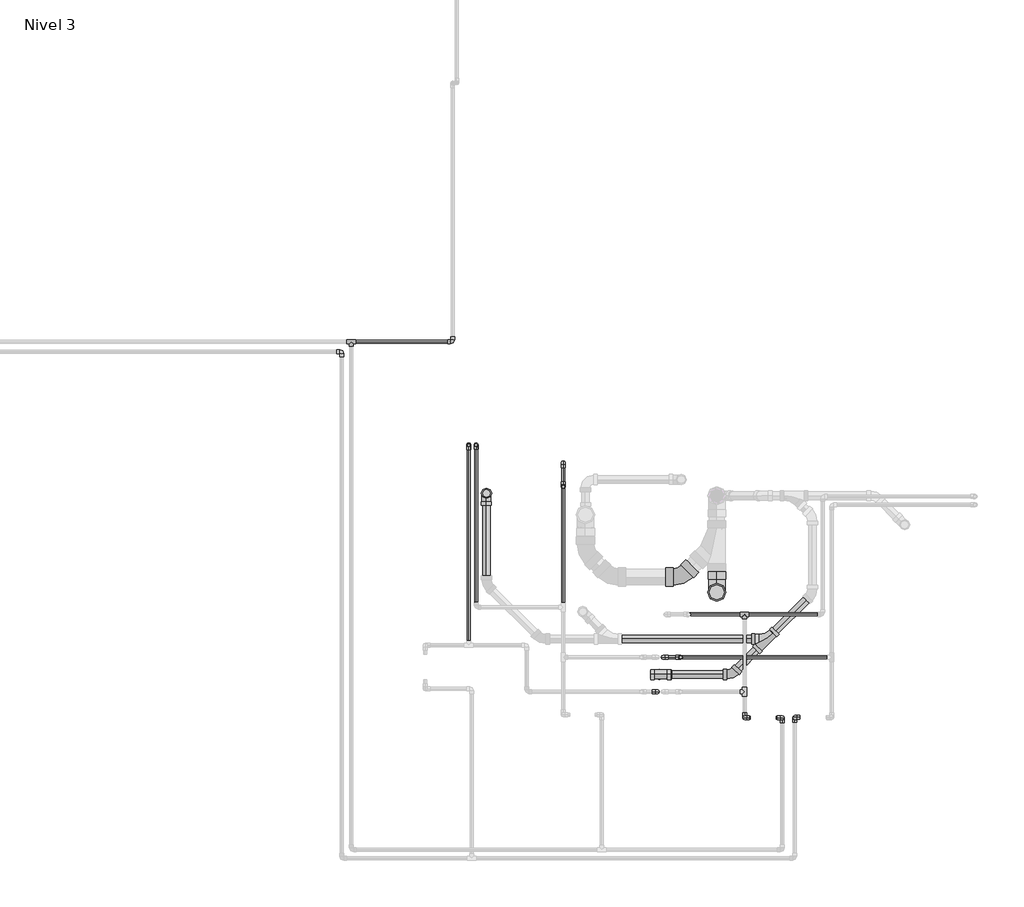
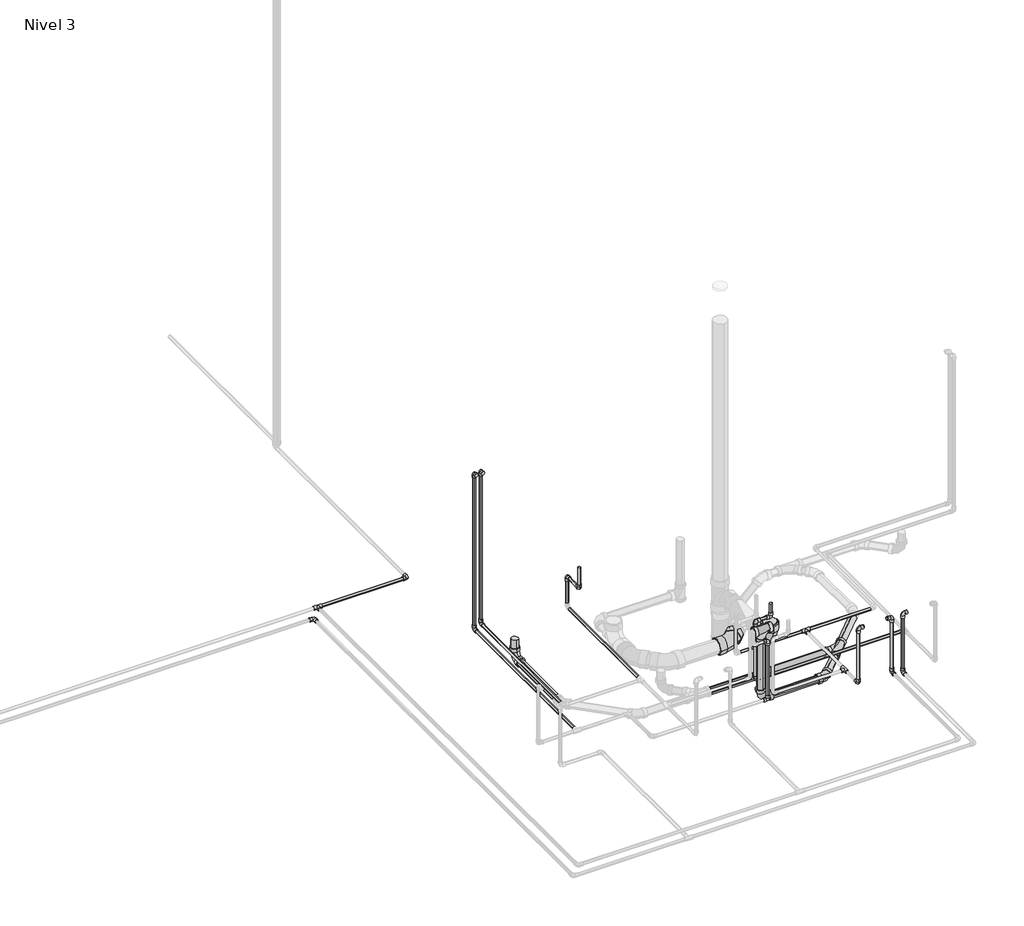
# One storey, part 3 of 9: 30 pipe segments, 29 pipe fittings.
"""IFC4 building model written with IfcOpenShell, lengths in millimetres."""

from ifc_helpers import new_model, si_unit, point, frame, frame_2d, origin, place, context, project, spatial, circle_curve, trimmed, segment, composite_curve, outline, extrude, transform, mapped, element, save
from components import pipe_fitting_ab418b84, pipe_fitting_0163322b, pipe_fitting_6ef1482d, m_codo_pvc_serie_40_9ad74631, m_codo_pvc_serie_40_ba05d404, m_codo_pvc_serie_40_dwv1_5c0ec739, m_codo_pvc_serie_40_dwv1_f5c0a64d, m_codo_pvc_serie_40_dwv1_9a7ca077, m_codo_pvc_serie_40_dwv1_6f1a2495

model = new_model("IFC4")

# Units and contexts
model_context = context("Model", 3, world=origin())
ifc_project = project(units=[si_unit("LENGTHUNIT", "METRE", prefix="MILLI")], contexts=[model_context])

# Site, building, storey
site = spatial("IfcSite", under=ifc_project)
building = spatial("IfcBuilding", under=site)
storey = spatial("IfcBuildingStorey", under=building, Name="Nivel 3", Elevation=5450.0)

# Pipe fittings
placement = place(None, origin())
pipe_fitting_shape = pipe_fitting_ab418b84(model_context)
element("IfcPipeFitting", 1, ObjectType="M_Te - PVC - Serie 40 : Estándar", at=placement, inside=storey, context=model_context, shape_type="MappedRepresentation", body=[
    mapped(pipe_fitting_shape, transform((4915.0072403, 7617.0181394, 5400.0), x_axis=(1.0, 0.0, 0.0), y_axis=(0.0, 1.0, 0.0), z_axis=(0.0, 0.0, 1.0))),
])
element("IfcPipeFitting", 2, ObjectType="M_Te - PVC - Serie 40 : Estándar", at=placement, inside=storey, context=model_context, shape_type="MappedRepresentation", body=[
    mapped(pipe_fitting_shape, transform((7622.9224126, 5206.6215833, 5400.0), x_axis=(0.0, 1.0, 0.0), y_axis=(1.0, 0.0, 0.0), z_axis=(0.0, 0.0, -1.0))),
])
element("IfcPipeFitting", 3, ObjectType="M_Te - PVC - Serie 40 : Estándar", at=placement, inside=storey, context=model_context, shape_type="MappedRepresentation", body=[
    mapped(pipe_fitting_shape, transform((7622.9224126, 5738.1215351, 5400.0), x_axis=(1.0, 0.0, 0.0), y_axis=(0.0, 1.0, 0.0), z_axis=(0.0, 0.0, 1.0))),
])
pipe_fitting_2_shape = pipe_fitting_0163322b(model_context)
element("IfcPipeFitting", 4, ObjectType="M_Sanitario con te de reducción - PVC - Serie 40 - DWV : Estándar", at=placement, inside=storey, context=model_context, shape_type="MappedRepresentation", body=[
    mapped(pipe_fitting_2_shape, transform((7780.3477467, 5569.8260974, 5300.0), x_axis=(-0.707106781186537, -0.7071067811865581, 0.0), y_axis=(0.7071067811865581, -0.707106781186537, 0.0), z_axis=(0.0, 0.0, 1.0))),
])
pipe_fitting_3_shape = pipe_fitting_6ef1482d(model_context)
element("IfcPipeFitting", 5, ObjectType="M_Sanitario con te de reducción - PVC - Serie 40 - DWV : Estándar", at=placement, inside=storey, context=model_context, shape_type="MappedRepresentation", body=[
    mapped(pipe_fitting_3_shape, transform((7035.5216492, 5325.0, 5860.6716548), x_axis=(-1.0, 0.0, 0.0), y_axis=(0.0, 0.0, 1.0), z_axis=(0.0, 1.0, 0.0))),
])
m_codo_pvc_serie_40_shape = m_codo_pvc_serie_40_9ad74631(model_context)
element("IfcPipeFitting", 6, ObjectType="M_Codo - PVC - Serie 40 : Estándar", at=placement, inside=storey, context=model_context, shape_type="MappedRepresentation", body=[
    mapped(m_codo_pvc_serie_40_shape, transform((6373.4849581, 6618.6807861, 5650.0), x_axis=(0.0, 0.0, -1.0), y_axis=(0.0, 1.0, 0.0), z_axis=(1.0, 0.0, 0.0))),
])
element("IfcPipeFitting", 7, ObjectType="M_Codo - PVC - Serie 40 : Estándar", at=placement, inside=storey, context=model_context, shape_type="MappedRepresentation", body=[
    mapped(m_codo_pvc_serie_40_shape, transform((6373.4849581, 6783.6807861, 5650.0), x_axis=(0.0, 1.0, 0.0), y_axis=(0.0, 0.0, -1.0), z_axis=(-1.0, 0.0, 0.0))),
])
element("IfcPipeFitting", 8, ObjectType="M_Codo - PVC - Serie 40 : Estándar", at=placement, inside=storey, context=model_context, shape_type="MappedRepresentation", body=[
    mapped(m_codo_pvc_serie_40_shape, transform((5611.6630441, 7617.0181394, 5400.0), x_axis=(1.0, 0.0, 0.0), y_axis=(0.0, 1.0, 0.0), z_axis=(0.0, 0.0, 1.0))),
])
element("IfcPipeFitting", 9, ObjectType="M_Codo - PVC - Serie 40 : Estándar", at=placement, inside=storey, context=model_context, shape_type="MappedRepresentation", body=[
    mapped(m_codo_pvc_serie_40_shape, transform((7622.9224126, 5026.6215833, 5400.0), x_axis=(0.0, -1.0, 0.0), y_axis=(0.0, 0.0, 1.0), z_axis=(-1.0, 0.0, 0.0))),
])
element("IfcPipeFitting", 10, ObjectType="M_Codo - PVC - Serie 40 : Estándar", at=placement, inside=storey, context=model_context, shape_type="MappedRepresentation", body=[
    mapped(m_codo_pvc_serie_40_shape, transform((7622.9224126, 5026.6215833, 5850.0), x_axis=(0.0, 0.0, 1.0), y_axis=(1.0, 0.0, 0.0), z_axis=(0.0, 1.0, 0.0))),
])
element("IfcPipeFitting", 11, ObjectType="M_Codo - PVC - Serie 40 : Estándar", at=placement, inside=storey, context=model_context, shape_type="MappedRepresentation", body=[
    mapped(m_codo_pvc_serie_40_shape, transform((7882.9224126, 5026.6215833, 5850.0), x_axis=(1.0, 0.0, 0.0), y_axis=(0.0, 0.0, -1.0), z_axis=(0.0, 1.0, 0.0))),
])
element("IfcPipeFitting", 12, ObjectType="M_Codo - PVC - Serie 40 : Estándar", at=placement, inside=storey, context=model_context, shape_type="MappedRepresentation", body=[
    mapped(m_codo_pvc_serie_40_shape, transform((7882.9224126, 5026.6215833, 5400.0), x_axis=(0.0, 0.0, -1.0), y_axis=(0.0, -1.0, 0.0), z_axis=(-1.0, 0.0, 0.0))),
])
element("IfcPipeFitting", 13, ObjectType="M_Codo - PVC - Serie 40 : Estándar", at=placement, inside=storey, context=model_context, shape_type="MappedRepresentation", body=[
    mapped(m_codo_pvc_serie_40_shape, transform((5773.4849581, 6908.5620607, 5400.0), x_axis=(0.0, 1.0, 0.0), y_axis=(0.0, 0.0, 1.0), z_axis=(1.0, 0.0, 0.0))),
])
element("IfcPipeFitting", 14, ObjectType="M_Codo - PVC - Serie 40 : Estándar", at=placement, inside=storey, context=model_context, shape_type="MappedRepresentation", body=[
    mapped(m_codo_pvc_serie_40_shape, transform((5773.4849581, 6908.5620607, 6650.0), x_axis=(0.0, 0.0, 1.0), y_axis=(0.0, -1.0, 0.0), z_axis=(1.0, 0.0, 0.0))),
])
element("IfcPipeFitting", 15, ObjectType="M_Codo - PVC - Serie 40 : Estándar", at=placement, inside=storey, context=model_context, shape_type="MappedRepresentation", body=[
    mapped(m_codo_pvc_serie_40_shape, transform((4848.2736664, 7548.5261191, 5370.0), x_axis=(0.0, 1.0, 0.0), y_axis=(-1.0, 0.0, 0.0), z_axis=(0.0, 0.0, 1.0))),
])
element("IfcPipeFitting", 16, ObjectType="M_Codo - PVC - Serie 40 : Estándar", at=placement, inside=storey, context=model_context, shape_type="MappedRepresentation", body=[
    mapped(m_codo_pvc_serie_40_shape, transform((7968.2736664, 5028.5261191, 5370.0), x_axis=(0.0, 1.0, 0.0), y_axis=(0.0, 0.0, 1.0), z_axis=(1.0, 0.0, 0.0))),
])
element("IfcPipeFitting", 17, ObjectType="M_Codo - PVC - Serie 40 : Estándar", at=placement, inside=storey, context=model_context, shape_type="MappedRepresentation", body=[
    mapped(m_codo_pvc_serie_40_shape, transform((7968.2736664, 5028.5261191, 5850.0), x_axis=(0.0, 0.0, 1.0), y_axis=(1.0, 0.0, 0.0), z_axis=(0.0, 1.0, 0.0))),
])
element("IfcPipeFitting", 18, ObjectType="M_Codo - PVC - Serie 40 : Estándar", at=placement, inside=storey, context=model_context, shape_type="MappedRepresentation", body=[
    mapped(m_codo_pvc_serie_40_shape, transform((7062.9224126, 5443.3784167, 5370.0), x_axis=(0.0, 0.0, -1.0), y_axis=(1.0, 0.0, 0.0), z_axis=(0.0, -1.0, 0.0))),
])
element("IfcPipeFitting", 19, ObjectType="M_Codo - PVC - Serie 40 : Estándar", at=placement, inside=storey, context=model_context, shape_type="MappedRepresentation", body=[
    mapped(m_codo_pvc_serie_40_shape, transform((5723.2442783, 6907.8715833, 5370.0), x_axis=(0.0, 1.0, 0.0), y_axis=(0.0, 0.0, 1.0), z_axis=(1.0, 0.0, 0.0))),
])
element("IfcPipeFitting", 20, ObjectType="M_Codo - PVC - Serie 40 : Estándar", at=placement, inside=storey, context=model_context, shape_type="MappedRepresentation", body=[
    mapped(m_codo_pvc_serie_40_shape, transform((5723.2442783, 6907.8715833, 6650.0), x_axis=(0.0, 0.0, 1.0), y_axis=(0.0, -1.0, 0.0), z_axis=(1.0, 0.0, 0.0))),
])
m_codo_pvc_serie_40_2_shape = m_codo_pvc_serie_40_ba05d404(model_context)
element("IfcPipeFitting", 21, ObjectType="M_Codo - PVC - Serie 40 : Estándar", at=placement, inside=storey, context=model_context, shape_type="MappedRepresentation", body=[
    mapped(m_codo_pvc_serie_40_2_shape, transform((7022.0365713, 5206.6215833, 5850.0), x_axis=(1.0, 0.0, 0.0), y_axis=(0.0, 0.0, 1.0), z_axis=(0.0, -1.0, 0.0))),
])
element("IfcPipeFitting", 22, ObjectType="M_Codo - PVC - Serie 40 : Estándar", at=placement, inside=storey, context=model_context, shape_type="MappedRepresentation", body=[
    mapped(m_codo_pvc_serie_40_2_shape, transform((7022.0365713, 5206.6215833, 5370.0), x_axis=(0.0, 0.0, -1.0), y_axis=(1.0, 0.0, 0.0), z_axis=(0.0, -1.0, 0.0))),
])
element("IfcPipeFitting", 23, ObjectType="M_Codo - PVC - Serie 40 : Estándar", at=placement, inside=storey, context=model_context, shape_type="MappedRepresentation", body=[
    mapped(m_codo_pvc_serie_40_2_shape, transform((7182.9224126, 5443.3784167, 5850.0), x_axis=(0.0, 0.0, -1.0), y_axis=(1.0, 0.0, 0.0), z_axis=(0.0, -1.0, 0.0))),
])
element("IfcPipeFitting", 24, ObjectType="M_Codo - PVC - Serie 40 : Estándar", at=placement, inside=storey, context=model_context, shape_type="MappedRepresentation", body=[
    mapped(m_codo_pvc_serie_40_2_shape, transform((7062.9224126, 5443.3784167, 5850.0), x_axis=(-1.0, 0.0, 0.0), y_axis=(0.0, 0.0, 1.0), z_axis=(0.0, 1.0, 0.0))),
])
m_codo_pvc_serie_40_dwv1_shape = m_codo_pvc_serie_40_dwv1_5c0ec739(model_context)
element("IfcPipeFitting", 25, ObjectType="M_Codo - PVC - Serie 40 - DWV1 : Estándar 2", at=placement, inside=storey, context=model_context, shape_type="MappedRepresentation", body=[
    mapped(m_codo_pvc_serie_40_dwv1_shape, transform((7035.5216492, 5325.0, 5300.0), x_axis=(0.0, 0.0, -1.0), y_axis=(1.0, 0.0, 0.0), z_axis=(0.0, -1.0, 0.0))),
])
element("IfcPipeFitting", 26, ObjectType="M_Codo - PVC - Serie 40 - DWV1 : Estándar 2", at=placement, inside=storey, context=model_context, shape_type="MappedRepresentation", body=[
    mapped(m_codo_pvc_serie_40_dwv1_shape, transform((5845.3355737, 6572.9803974, 5300.0), x_axis=(0.0, 1.0, 0.0), y_axis=(0.0, 0.0, 1.0), z_axis=(1.0, 0.0, 0.0))),
])
m_codo_pvc_serie_40_dwv1_2_shape = m_codo_pvc_serie_40_dwv1_f5c0a64d(model_context)
element("IfcPipeFitting", 27, ObjectType="M_Codo - PVC - Serie 40 - DWV1 : Estándar 2", at=placement, inside=storey, context=model_context, shape_type="MappedRepresentation", body=[
    mapped(m_codo_pvc_serie_40_dwv1_2_shape, transform((7432.3176766, 5891.6039726, 5300.0), x_axis=(0.0, 0.0, -1.0), y_axis=(0.0, 1.0, 0.0), z_axis=(1.0, 0.0, 0.0))),
])
m_codo_pvc_serie_40_dwv1_3_shape = m_codo_pvc_serie_40_dwv1_9a7ca077(model_context)
element("IfcPipeFitting", 28, ObjectType="M_Codo - PVC - Serie 40 - DWV1 : Estándar 2", at=placement, inside=storey, context=model_context, shape_type="MappedRepresentation", body=[
    mapped(m_codo_pvc_serie_40_dwv1_3_shape, transform((7188.0943794, 5996.1455314, 5300.0), x_axis=(1.0, 0.0, 0.0), y_axis=(0.0, 1.0, 0.0), z_axis=(0.0, 0.0, 1.0))),
])
m_codo_pvc_serie_40_dwv1_4_shape = m_codo_pvc_serie_40_dwv1_6f1a2495(model_context)
element("IfcPipeFitting", 29, ObjectType="M_Codo - PVC - Serie 40 - DWV1 : Estándar 2", at=placement, inside=storey, context=model_context, shape_type="MappedRepresentation", body=[
    mapped(m_codo_pvc_serie_40_dwv1_4_shape, transform((7535.5216492, 5325.0, 5300.0), x_axis=(1.0, 0.0, 0.0), y_axis=(0.0, 1.0, 0.0), z_axis=(0.0, 0.0, 1.0))),
])

# Pipe segments
element("IfcPipeSegment", 30, ObjectType="Tuberia PVC Agua Fria", at=placement, inside=storey, context=model_context, shape_type="SweptSolid", body=[
    extrude(outline(composite_curve([segment(trimmed(circle_curve(frame_2d((5650.0, 6373.4849581)), 10.31875), [point((5650.0, 6383.8037081))], [point((5660.31875, 6373.4849581))], False, "CARTESIAN"), True, "CONTINUOUS"), segment(trimmed(circle_curve(frame_2d((5650.0, 6373.4849581)), 10.31875), [point((5660.31875, 6373.4849581))], [point((5650.0, 6363.1662081))], False, "CARTESIAN"), True, "CONTINUOUS"), segment(trimmed(circle_curve(frame_2d((5650.0, 6373.4849581)), 10.31875), [point((5650.0, 6363.1662081))], [point((5639.68125, 6373.4849581))], False, "CARTESIAN"), True, "CONTINUOUS"), segment(trimmed(circle_curve(frame_2d((5650.0, 6373.4849581)), 10.31875), [point((5639.68125, 6373.4849581))], [point((5650.0, 6383.8037081))], False, "CARTESIAN"), True, "CONTINUOUS")], self_intersect=False)), frame((0.0, 6652.0817861, 0.0), z_axis=(0.0, 1.0, 0.0), x_axis=(0.0, 0.0, 1.0)), (0.0, 0.0, 1.0), 98.198),
])
element("IfcPipeSegment", 31, ObjectType="Tuberia PVC Agua Fria", at=placement, inside=storey, context=model_context, shape_type="SweptSolid", body=[
    extrude(outline(composite_curve([segment(trimmed(circle_curve(frame_2d((6373.4849581, 6618.6807861)), 10.31875), [point((6383.8037081, 6618.6807861))], [point((6373.4849581, 6608.3620361))], False, "CARTESIAN"), True, "CONTINUOUS"), segment(trimmed(circle_curve(frame_2d((6373.4849581, 6618.6807861)), 10.31875), [point((6373.4849581, 6608.3620361))], [point((6363.1662081, 6618.6807861))], False, "CARTESIAN"), True, "CONTINUOUS"), segment(trimmed(circle_curve(frame_2d((6373.4849581, 6618.6807861)), 10.31875), [point((6363.1662081, 6618.6807861))], [point((6373.4849581, 6628.9995361))], False, "CARTESIAN"), True, "CONTINUOUS"), segment(trimmed(circle_curve(frame_2d((6373.4849581, 6618.6807861)), 10.31875), [point((6373.4849581, 6628.9995361))], [point((6383.8037081, 6618.6807861))], False, "CARTESIAN"), True, "CONTINUOUS")], self_intersect=False)), frame((0.0, 0.0, 5683.401), z_axis=(0.0, 0.0, 1.0), x_axis=(1.0, 0.0, 0.0)), (0.0, 0.0, 1.0), 139.7562509),
])
element("IfcPipeSegment", 32, ObjectType="Tuberia PVC Agua Fria", at=placement, inside=storey, context=model_context, shape_type="SweptSolid", body=[
    extrude(outline(composite_curve([segment(trimmed(circle_curve(frame_2d((6373.4849581, 6783.6807861)), 10.31875), [point((6383.8037081, 6783.6807861))], [point((6373.4849581, 6773.3620361))], False, "CARTESIAN"), True, "CONTINUOUS"), segment(trimmed(circle_curve(frame_2d((6373.4849581, 6783.6807861)), 10.31875), [point((6373.4849581, 6773.3620361))], [point((6363.1662081, 6783.6807861))], False, "CARTESIAN"), True, "CONTINUOUS"), segment(trimmed(circle_curve(frame_2d((6373.4849581, 6783.6807861)), 10.31875), [point((6363.1662081, 6783.6807861))], [point((6373.4849581, 6793.9995361))], False, "CARTESIAN"), True, "CONTINUOUS"), segment(trimmed(circle_curve(frame_2d((6373.4849581, 6783.6807861)), 10.31875), [point((6373.4849581, 6793.9995361))], [point((6383.8037081, 6783.6807861))], False, "CARTESIAN"), True, "CONTINUOUS")], self_intersect=False)), frame((0.0, 0.0, 5433.401), z_axis=(0.0, 0.0, 1.0), x_axis=(1.0, 0.0, 0.0)), (0.0, 0.0, 1.0), 183.198),
])
element("IfcPipeSegment", 33, ObjectType="Tuberia PVC Agua Fria", at=placement, inside=storey, context=model_context, shape_type="SweptSolid", body=[
    extrude(outline(composite_curve([segment(trimmed(circle_curve(frame_2d((7617.0181394, 5400.0)), 10.31875), [point((7627.3368894, 5400.0))], [point((7617.0181394, 5389.68125))], False, "CARTESIAN"), True, "CONTINUOUS"), segment(trimmed(circle_curve(frame_2d((7617.0181394, 5400.0)), 10.31875), [point((7617.0181394, 5389.68125))], [point((7606.6993894, 5400.0))], False, "CARTESIAN"), True, "CONTINUOUS"), segment(trimmed(circle_curve(frame_2d((7617.0181394, 5400.0)), 10.31875), [point((7606.6993894, 5400.0))], [point((7617.0181394, 5410.31875))], False, "CARTESIAN"), True, "CONTINUOUS"), segment(trimmed(circle_curve(frame_2d((7617.0181394, 5400.0)), 10.31875), [point((7617.0181394, 5410.31875))], [point((7627.3368894, 5400.0))], False, "CARTESIAN"), True, "CONTINUOUS")], self_intersect=False)), frame((4945.4673966, 0.0, 0.0), z_axis=(1.0, 0.0, 0.0), x_axis=(0.0, 1.0, 0.0)), (0.0, 0.0, 1.0), 632.7946475),
])
element("IfcPipeSegment", 34, ObjectType="Tuberia PVC Agua Fria", at=placement, inside=storey, context=model_context, shape_type="SweptSolid", body=[
    extrude(outline(composite_curve([segment(trimmed(circle_curve(frame_2d((5400.0, 6373.4849581)), 10.31875), [point((5400.0, 6383.8037081))], [point((5410.31875, 6373.4849581))], False, "CARTESIAN"), True, "CONTINUOUS"), segment(trimmed(circle_curve(frame_2d((5400.0, 6373.4849581)), 10.31875), [point((5410.31875, 6373.4849581))], [point((5400.0, 6363.1662081))], False, "CARTESIAN"), True, "CONTINUOUS"), segment(trimmed(circle_curve(frame_2d((5400.0, 6373.4849581)), 10.31875), [point((5400.0, 6363.1662081))], [point((5389.68125, 6373.4849581))], False, "CARTESIAN"), True, "CONTINUOUS"), segment(trimmed(circle_curve(frame_2d((5400.0, 6373.4849581)), 10.31875), [point((5389.68125, 6373.4849581))], [point((5400.0, 6383.8037081))], False, "CARTESIAN"), True, "CONTINUOUS")], self_intersect=False)), frame((0.0, 5819.0222169, 0.0), z_axis=(0.0, 1.0, 0.0), x_axis=(0.0, 0.0, 1.0)), (0.0, 0.0, 1.0), 931.2575692),
])
element("IfcPipeSegment", 35, ObjectType="Tuberia PVC Agua Fria", at=placement, inside=storey, context=model_context, shape_type="SweptSolid", body=[
    extrude(outline(composite_curve([segment(trimmed(circle_curve(frame_2d((5026.6215833, 5850.0)), 10.31875), [point((5016.3028333, 5850.0))], [point((5026.6215833, 5860.31875))], False, "CARTESIAN"), True, "CONTINUOUS"), segment(trimmed(circle_curve(frame_2d((5026.6215833, 5850.0)), 10.31875), [point((5026.6215833, 5860.31875))], [point((5036.9403333, 5850.0))], False, "CARTESIAN"), True, "CONTINUOUS"), segment(trimmed(circle_curve(frame_2d((5026.6215833, 5850.0)), 10.31875), [point((5036.9403333, 5850.0))], [point((5026.6215833, 5839.68125))], False, "CARTESIAN"), True, "CONTINUOUS"), segment(trimmed(circle_curve(frame_2d((5026.6215833, 5850.0)), 10.31875), [point((5026.6215833, 5839.68125))], [point((5016.3028333, 5850.0))], False, "CARTESIAN"), True, "CONTINUOUS")], self_intersect=False)), frame((7841.9224126, 0.0, 0.0), z_axis=(1.0, 0.0, 0.0), x_axis=(0.0, 1.0, 0.0)), (0.0, 0.0, 1.0), 7.599),
])
element("IfcPipeSegment", 36, ObjectType="Tuberia PVC Agua Fria", at=placement, inside=storey, context=model_context, shape_type="SweptSolid", body=[
    extrude(outline(composite_curve([segment(trimmed(circle_curve(frame_2d((7622.9224126, 5026.6215833)), 10.31875), [point((7612.6036626, 5026.6215833))], [point((7622.9224126, 5036.9403333))], False, "CARTESIAN"), True, "CONTINUOUS"), segment(trimmed(circle_curve(frame_2d((7622.9224126, 5026.6215833)), 10.31875), [point((7622.9224126, 5036.9403333))], [point((7633.2411626, 5026.6215833))], False, "CARTESIAN"), True, "CONTINUOUS"), segment(trimmed(circle_curve(frame_2d((7622.9224126, 5026.6215833)), 10.31875), [point((7633.2411626, 5026.6215833))], [point((7622.9224126, 5016.3028333))], False, "CARTESIAN"), True, "CONTINUOUS"), segment(trimmed(circle_curve(frame_2d((7622.9224126, 5026.6215833)), 10.31875), [point((7622.9224126, 5016.3028333))], [point((7612.6036626, 5026.6215833))], False, "CARTESIAN"), True, "CONTINUOUS")], self_intersect=False)), frame((0.0, 0.0, 5433.401), z_axis=(0.0, 0.0, 1.0), x_axis=(1.0, 0.0, 0.0)), (0.0, 0.0, 1.0), 383.198),
])
element("IfcPipeSegment", 37, ObjectType="Tuberia PVC Agua Fria", at=placement, inside=storey, context=model_context, shape_type="SweptSolid", body=[
    extrude(outline(composite_curve([segment(trimmed(circle_curve(frame_2d((7882.9224126, 5026.6215833)), 10.31875), [point((7893.2411626, 5026.6215833))], [point((7882.9224126, 5016.3028333))], False, "CARTESIAN"), True, "CONTINUOUS"), segment(trimmed(circle_curve(frame_2d((7882.9224126, 5026.6215833)), 10.31875), [point((7882.9224126, 5016.3028333))], [point((7872.6036626, 5026.6215833))], False, "CARTESIAN"), True, "CONTINUOUS"), segment(trimmed(circle_curve(frame_2d((7882.9224126, 5026.6215833)), 10.31875), [point((7872.6036626, 5026.6215833))], [point((7882.9224126, 5036.9403333))], False, "CARTESIAN"), True, "CONTINUOUS"), segment(trimmed(circle_curve(frame_2d((7882.9224126, 5026.6215833)), 10.31875), [point((7882.9224126, 5036.9403333))], [point((7893.2411626, 5026.6215833))], False, "CARTESIAN"), True, "CONTINUOUS")], self_intersect=False)), frame((0.0, 0.0, 5433.401), z_axis=(0.0, 0.0, 1.0), x_axis=(1.0, 0.0, 0.0)), (0.0, 0.0, 1.0), 383.198),
])
element("IfcPipeSegment", 38, ObjectType="Tuberia PVC Agua Fria", at=placement, inside=storey, context=model_context, shape_type="SweptSolid", body=[
    extrude(outline(composite_curve([segment(trimmed(circle_curve(frame_2d((5400.0, 5773.4849581)), 10.31875), [point((5400.0, 5783.8037081))], [point((5410.31875, 5773.4849581))], False, "CARTESIAN"), True, "CONTINUOUS"), segment(trimmed(circle_curve(frame_2d((5400.0, 5773.4849581)), 10.31875), [point((5410.31875, 5773.4849581))], [point((5400.0, 5763.1662081))], False, "CARTESIAN"), True, "CONTINUOUS"), segment(trimmed(circle_curve(frame_2d((5400.0, 5773.4849581)), 10.31875), [point((5400.0, 5763.1662081))], [point((5389.68125, 5773.4849581))], False, "CARTESIAN"), True, "CONTINUOUS"), segment(trimmed(circle_curve(frame_2d((5400.0, 5773.4849581)), 10.31875), [point((5389.68125, 5773.4849581))], [point((5400.0, 5783.8037081))], False, "CARTESIAN"), True, "CONTINUOUS")], self_intersect=False)), frame((0.0, 5821.9630607, 0.0), z_axis=(0.0, 1.0, 0.0), x_axis=(0.0, 0.0, 1.0)), (0.0, 0.0, 1.0), 1053.198),
])
element("IfcPipeSegment", 39, ObjectType="Tuberia PVC Agua Fria", at=placement, inside=storey, context=model_context, shape_type="SweptSolid", body=[
    extrude(outline(composite_curve([segment(trimmed(circle_curve(frame_2d((5773.4849581, 6908.5620607)), 10.31875), [point((5763.1662081, 6908.5620607))], [point((5773.4849581, 6918.8808107))], False, "CARTESIAN"), True, "CONTINUOUS"), segment(trimmed(circle_curve(frame_2d((5773.4849581, 6908.5620607)), 10.31875), [point((5773.4849581, 6918.8808107))], [point((5783.8037081, 6908.5620607))], False, "CARTESIAN"), True, "CONTINUOUS"), segment(trimmed(circle_curve(frame_2d((5773.4849581, 6908.5620607)), 10.31875), [point((5783.8037081, 6908.5620607))], [point((5773.4849581, 6898.2433107))], False, "CARTESIAN"), True, "CONTINUOUS"), segment(trimmed(circle_curve(frame_2d((5773.4849581, 6908.5620607)), 10.31875), [point((5773.4849581, 6898.2433107))], [point((5763.1662081, 6908.5620607))], False, "CARTESIAN"), True, "CONTINUOUS")], self_intersect=False)), frame((0.0, 0.0, 5433.401), z_axis=(0.0, 0.0, 1.0), x_axis=(1.0, 0.0, 0.0)), (0.0, 0.0, 1.0), 1183.198),
])
element("IfcPipeSegment", 40, ObjectType="Tuberia PVC Agua Fria", at=placement, inside=storey, context=model_context, shape_type="SweptSolid", body=[
    extrude(outline(composite_curve([segment(trimmed(circle_curve(frame_2d((5738.1215351, 5400.0)), 10.31875), [point((5748.4402851, 5400.0))], [point((5738.1215351, 5389.68125))], False, "CARTESIAN"), True, "CONTINUOUS"), segment(trimmed(circle_curve(frame_2d((5738.1215351, 5400.0)), 10.31875), [point((5738.1215351, 5389.68125))], [point((5727.8027851, 5400.0))], False, "CARTESIAN"), True, "CONTINUOUS"), segment(trimmed(circle_curve(frame_2d((5738.1215351, 5400.0)), 10.31875), [point((5727.8027851, 5400.0))], [point((5738.1215351, 5410.31875))], False, "CARTESIAN"), True, "CONTINUOUS"), segment(trimmed(circle_curve(frame_2d((5738.1215351, 5400.0)), 10.31875), [point((5738.1215351, 5410.31875))], [point((5748.4402851, 5400.0))], False, "CARTESIAN"), True, "CONTINUOUS")], self_intersect=False)), frame((7112.7418631, 0.0, 0.0), z_axis=(1.0, 0.0, 0.0), x_axis=(0.0, 1.0, 0.0)), (0.0, 0.0, 1.0), 479.7203933),
])
element("IfcPipeSegment", 41, ObjectType="Tuberia PVC Agua Fria", at=placement, inside=storey, context=model_context, shape_type="SweptSolid", body=[
    extrude(outline(composite_curve([segment(trimmed(circle_curve(frame_2d((5738.1215351, 5400.0)), 10.31875), [point((5748.4402851, 5400.0))], [point((5738.1215351, 5389.68125))], False, "CARTESIAN"), True, "CONTINUOUS"), segment(trimmed(circle_curve(frame_2d((5738.1215351, 5400.0)), 10.31875), [point((5738.1215351, 5389.68125))], [point((5727.8027851, 5400.0))], False, "CARTESIAN"), True, "CONTINUOUS"), segment(trimmed(circle_curve(frame_2d((5738.1215351, 5400.0)), 10.31875), [point((5727.8027851, 5400.0))], [point((5738.1215351, 5410.31875))], False, "CARTESIAN"), True, "CONTINUOUS"), segment(trimmed(circle_curve(frame_2d((5738.1215351, 5400.0)), 10.31875), [point((5738.1215351, 5410.31875))], [point((5748.4402851, 5400.0))], False, "CARTESIAN"), True, "CONTINUOUS")], self_intersect=False)), frame((7653.3825689, 0.0, 0.0), z_axis=(1.0, 0.0, 0.0), x_axis=(0.0, 1.0, 0.0)), (0.0, 0.0, 1.0), 473.9388792),
])
element("IfcPipeSegment", 42, ObjectType="Tuberia PVC Agua Fria", at=placement, inside=storey, context=model_context, shape_type="SweptSolid", body=[
    extrude(outline(composite_curve([segment(trimmed(circle_curve(frame_2d((5026.6215833, 5850.0)), 10.31875), [point((5016.3028333, 5850.0))], [point((5026.6215833, 5860.31875))], False, "CARTESIAN"), True, "CONTINUOUS"), segment(trimmed(circle_curve(frame_2d((5026.6215833, 5850.0)), 10.31875), [point((5026.6215833, 5860.31875))], [point((5036.9403333, 5850.0))], False, "CARTESIAN"), True, "CONTINUOUS"), segment(trimmed(circle_curve(frame_2d((5026.6215833, 5850.0)), 10.31875), [point((5036.9403333, 5850.0))], [point((5026.6215833, 5839.68125))], False, "CARTESIAN"), True, "CONTINUOUS"), segment(trimmed(circle_curve(frame_2d((5026.6215833, 5850.0)), 10.31875), [point((5026.6215833, 5839.68125))], [point((5016.3028333, 5850.0))], False, "CARTESIAN"), True, "CONTINUOUS")], self_intersect=False)), frame((7656.3234126, 0.0, 0.0), z_axis=(1.0, 0.0, 0.0), x_axis=(0.0, 1.0, 0.0)), (0.0, 0.0, 1.0), 7.599),
])
element("IfcPipeSegment", 43, ObjectType="Tuberia PVC Agua Caliente", at=placement, inside=storey, context=model_context, shape_type="SweptSolid", body=[
    extrude(outline(composite_curve([segment(trimmed(circle_curve(frame_2d((7968.2736664, 5028.5261191)), 10.31875), [point((7957.9549164, 5028.5261191))], [point((7968.2736664, 5038.8448691))], False, "CARTESIAN"), True, "CONTINUOUS"), segment(trimmed(circle_curve(frame_2d((7968.2736664, 5028.5261191)), 10.31875), [point((7968.2736664, 5038.8448691))], [point((7978.5924164, 5028.5261191))], False, "CARTESIAN"), True, "CONTINUOUS"), segment(trimmed(circle_curve(frame_2d((7968.2736664, 5028.5261191)), 10.31875), [point((7978.5924164, 5028.5261191))], [point((7968.2736664, 5018.2073691))], False, "CARTESIAN"), True, "CONTINUOUS"), segment(trimmed(circle_curve(frame_2d((7968.2736664, 5028.5261191)), 10.31875), [point((7968.2736664, 5018.2073691))], [point((7957.9549164, 5028.5261191))], False, "CARTESIAN"), True, "CONTINUOUS")], self_intersect=False)), frame((0.0, 0.0, 5403.401), z_axis=(0.0, 0.0, 1.0), x_axis=(1.0, 0.0, 0.0)), (0.0, 0.0, 1.0), 413.198),
])
element("IfcPipeSegment", 44, ObjectType="Tuberia PVC Agua Caliente", at=placement, inside=storey, context=model_context, shape_type="SweptSolid", body=[
    extrude(outline(composite_curve([segment(trimmed(circle_curve(frame_2d((7022.0365713, 5206.6215833)), 10.31875), [point((7032.3553213, 5206.6215833))], [point((7022.0365713, 5196.3028333))], False, "CARTESIAN"), True, "CONTINUOUS"), segment(trimmed(circle_curve(frame_2d((7022.0365713, 5206.6215833)), 10.31875), [point((7022.0365713, 5196.3028333))], [point((7011.7178213, 5206.6215833))], False, "CARTESIAN"), True, "CONTINUOUS"), segment(trimmed(circle_curve(frame_2d((7022.0365713, 5206.6215833)), 10.31875), [point((7011.7178213, 5206.6215833))], [point((7022.0365713, 5216.9403333))], False, "CARTESIAN"), True, "CONTINUOUS"), segment(trimmed(circle_curve(frame_2d((7022.0365713, 5206.6215833)), 10.31875), [point((7022.0365713, 5216.9403333))], [point((7032.3553213, 5206.6215833))], False, "CARTESIAN"), True, "CONTINUOUS")], self_intersect=False)), frame((0.0, 0.0, 5403.401), z_axis=(0.0, 0.0, 1.0), x_axis=(1.0, 0.0, 0.0)), (0.0, 0.0, 1.0), 413.198),
])
element("IfcPipeSegment", 45, ObjectType="Tuberia PVC Agua Caliente", at=placement, inside=storey, context=model_context, shape_type="SweptSolid", body=[
    extrude(outline(composite_curve([segment(trimmed(circle_curve(frame_2d((5443.3784167, 5850.0)), 10.31875), [point((5453.6971667, 5850.0))], [point((5443.3784167, 5839.68125))], False, "CARTESIAN"), True, "CONTINUOUS"), segment(trimmed(circle_curve(frame_2d((5443.3784167, 5850.0)), 10.31875), [point((5443.3784167, 5839.68125))], [point((5433.0596667, 5850.0))], False, "CARTESIAN"), True, "CONTINUOUS"), segment(trimmed(circle_curve(frame_2d((5443.3784167, 5850.0)), 10.31875), [point((5433.0596667, 5850.0))], [point((5443.3784167, 5860.31875))], False, "CARTESIAN"), True, "CONTINUOUS"), segment(trimmed(circle_curve(frame_2d((5443.3784167, 5850.0)), 10.31875), [point((5443.3784167, 5860.31875))], [point((5453.6971667, 5850.0))], False, "CARTESIAN"), True, "CONTINUOUS")], self_intersect=False)), frame((7096.3234126, 0.0, 0.0), z_axis=(1.0, 0.0, 0.0), x_axis=(0.0, 1.0, 0.0)), (0.0, 0.0, 1.0), 53.198),
])
element("IfcPipeSegment", 46, ObjectType="Tuberia PVC Agua Caliente", at=placement, inside=storey, context=model_context, shape_type="SweptSolid", body=[
    extrude(outline(composite_curve([segment(trimmed(circle_curve(frame_2d((7182.9224126, 5443.3784167)), 10.31875), [point((7193.2411626, 5443.3784167))], [point((7182.9224126, 5433.0596667))], False, "CARTESIAN"), True, "CONTINUOUS"), segment(trimmed(circle_curve(frame_2d((7182.9224126, 5443.3784167)), 10.31875), [point((7182.9224126, 5433.0596667))], [point((7172.6036626, 5443.3784167))], False, "CARTESIAN"), True, "CONTINUOUS"), segment(trimmed(circle_curve(frame_2d((7182.9224126, 5443.3784167)), 10.31875), [point((7172.6036626, 5443.3784167))], [point((7182.9224126, 5453.6971667))], False, "CARTESIAN"), True, "CONTINUOUS"), segment(trimmed(circle_curve(frame_2d((7182.9224126, 5443.3784167)), 10.31875), [point((7182.9224126, 5453.6971667))], [point((7193.2411626, 5443.3784167))], False, "CARTESIAN"), True, "CONTINUOUS")], self_intersect=False)), frame((0.0, 0.0, 5883.401), z_axis=(0.0, 0.0, 1.0), x_axis=(1.0, 0.0, 0.0)), (0.0, 0.0, 1.0), 74.0983614),
])
element("IfcPipeSegment", 47, ObjectType="Tuberia PVC Agua Caliente", at=placement, inside=storey, context=model_context, shape_type="SweptSolid", body=[
    extrude(outline(composite_curve([segment(trimmed(circle_curve(frame_2d((5443.3784167, 5370.0)), 10.31875), [point((5433.0596667, 5370.0))], [point((5443.3784167, 5380.31875))], False, "CARTESIAN"), True, "CONTINUOUS"), segment(trimmed(circle_curve(frame_2d((5443.3784167, 5370.0)), 10.31875), [point((5443.3784167, 5380.31875))], [point((5453.6971667, 5370.0))], False, "CARTESIAN"), True, "CONTINUOUS"), segment(trimmed(circle_curve(frame_2d((5443.3784167, 5370.0)), 10.31875), [point((5453.6971667, 5370.0))], [point((5443.3784167, 5359.68125))], False, "CARTESIAN"), True, "CONTINUOUS"), segment(trimmed(circle_curve(frame_2d((5443.3784167, 5370.0)), 10.31875), [point((5443.3784167, 5359.68125))], [point((5433.0596667, 5370.0))], False, "CARTESIAN"), True, "CONTINUOUS")], self_intersect=False)), frame((7096.3234126, 0.0, 0.0), z_axis=(1.0, 0.0, 0.0), x_axis=(0.0, 1.0, 0.0)), (0.0, 0.0, 1.0), 1096.4900975),
])
element("IfcPipeSegment", 48, ObjectType="Tuberia PVC Agua Caliente", at=placement, inside=storey, context=model_context, shape_type="SweptSolid", body=[
    extrude(outline(composite_curve([segment(trimmed(circle_curve(frame_2d((7062.9224126, 5443.3784167)), 10.31875), [point((7073.2411626, 5443.3784167))], [point((7062.9224126, 5433.0596667))], False, "CARTESIAN"), True, "CONTINUOUS"), segment(trimmed(circle_curve(frame_2d((7062.9224126, 5443.3784167)), 10.31875), [point((7062.9224126, 5433.0596667))], [point((7052.6036626, 5443.3784167))], False, "CARTESIAN"), True, "CONTINUOUS"), segment(trimmed(circle_curve(frame_2d((7062.9224126, 5443.3784167)), 10.31875), [point((7052.6036626, 5443.3784167))], [point((7062.9224126, 5453.6971667))], False, "CARTESIAN"), True, "CONTINUOUS"), segment(trimmed(circle_curve(frame_2d((7062.9224126, 5443.3784167)), 10.31875), [point((7062.9224126, 5453.6971667))], [point((7073.2411626, 5443.3784167))], False, "CARTESIAN"), True, "CONTINUOUS")], self_intersect=False)), frame((0.0, 0.0, 5403.401), z_axis=(0.0, 0.0, 1.0), x_axis=(1.0, 0.0, 0.0)), (0.0, 0.0, 1.0), 413.198),
])
element("IfcPipeSegment", 49, ObjectType="Tuberia PVC Agua Caliente", at=placement, inside=storey, context=model_context, shape_type="SweptSolid", body=[
    extrude(outline(composite_curve([segment(trimmed(circle_curve(frame_2d((5370.0, 5723.2442783)), 10.31875), [point((5370.0, 5733.5630283))], [point((5380.31875, 5723.2442783))], False, "CARTESIAN"), True, "CONTINUOUS"), segment(trimmed(circle_curve(frame_2d((5370.0, 5723.2442783)), 10.31875), [point((5380.31875, 5723.2442783))], [point((5370.0, 5712.9255283))], False, "CARTESIAN"), True, "CONTINUOUS"), segment(trimmed(circle_curve(frame_2d((5370.0, 5723.2442783)), 10.31875), [point((5370.0, 5712.9255283))], [point((5359.68125, 5723.2442783))], False, "CARTESIAN"), True, "CONTINUOUS"), segment(trimmed(circle_curve(frame_2d((5370.0, 5723.2442783)), 10.31875), [point((5359.68125, 5723.2442783))], [point((5370.0, 5733.5630283))], False, "CARTESIAN"), True, "CONTINUOUS")], self_intersect=False)), frame((0.0, 5557.0817396, 0.0), z_axis=(0.0, 1.0, 0.0), x_axis=(0.0, 0.0, 1.0)), (0.0, 0.0, 1.0), 1317.3888438),
])
element("IfcPipeSegment", 50, ObjectType="Tuberia PVC Agua Caliente", at=placement, inside=storey, context=model_context, shape_type="SweptSolid", body=[
    extrude(outline(composite_curve([segment(trimmed(circle_curve(frame_2d((5723.2442783, 6907.8715833)), 10.31875), [point((5712.9255283, 6907.8715833))], [point((5723.2442783, 6918.1903333))], False, "CARTESIAN"), True, "CONTINUOUS"), segment(trimmed(circle_curve(frame_2d((5723.2442783, 6907.8715833)), 10.31875), [point((5723.2442783, 6918.1903333))], [point((5733.5630283, 6907.8715833))], False, "CARTESIAN"), True, "CONTINUOUS"), segment(trimmed(circle_curve(frame_2d((5723.2442783, 6907.8715833)), 10.31875), [point((5733.5630283, 6907.8715833))], [point((5723.2442783, 6897.5528333))], False, "CARTESIAN"), True, "CONTINUOUS"), segment(trimmed(circle_curve(frame_2d((5723.2442783, 6907.8715833)), 10.31875), [point((5723.2442783, 6897.5528333))], [point((5712.9255283, 6907.8715833))], False, "CARTESIAN"), True, "CONTINUOUS")], self_intersect=False)), frame((0.0, 0.0, 5403.401), z_axis=(0.0, 0.0, 1.0), x_axis=(1.0, 0.0, 0.0)), (0.0, 0.0, 1.0), 1213.198),
])
element("IfcPipeSegment", 51, ObjectType="Tuberia PVC Sanitario", at=placement, inside=storey, context=model_context, shape_type="SweptSolid", body=[
    extrude(outline(composite_curve([segment(trimmed(circle_curve(frame_2d((7432.3176766, 5891.6039726)), 52.3875), [point((7484.7051766, 5891.6039726))], [point((7432.3176766, 5839.2164726))], False, "CARTESIAN"), True, "CONTINUOUS"), segment(trimmed(circle_curve(frame_2d((7432.3176766, 5891.6039726)), 52.3875), [point((7432.3176766, 5839.2164726))], [point((7379.9301766, 5891.6039726))], False, "CARTESIAN"), True, "CONTINUOUS"), segment(trimmed(circle_curve(frame_2d((7432.3176766, 5891.6039726)), 52.3875), [point((7379.9301766, 5891.6039726))], [point((7432.3176766, 5943.9914726))], False, "CARTESIAN"), True, "CONTINUOUS"), segment(trimmed(circle_curve(frame_2d((7432.3176766, 5891.6039726)), 52.3875), [point((7432.3176766, 5943.9914726))], [point((7484.7051766, 5891.6039726))], False, "CARTESIAN"), True, "CONTINUOUS")], self_intersect=False)), frame((0.0, 0.0, 5441.4700625), z_axis=(0.0, 0.0, 1.0), x_axis=(1.0, 0.0, 0.0)), (0.0, 0.0, 1.0), 8.5299375),
])
element("IfcPipeSegment", 52, ObjectType="Tuberia PVC Sanitario", at=placement, inside=storey, context=model_context, shape_type="SweptSolid", body=[
    extrude(outline(composite_curve([segment(trimmed(circle_curve(frame_2d((5325.0, 5860.6716548)), 26.9875), [point((5351.9875, 5860.6716548))], [point((5325.0, 5833.6841548))], False, "CARTESIAN"), True, "CONTINUOUS"), segment(trimmed(circle_curve(frame_2d((5325.0, 5860.6716548)), 26.9875), [point((5325.0, 5833.6841548))], [point((5298.0125, 5860.6716548))], False, "CARTESIAN"), True, "CONTINUOUS"), segment(trimmed(circle_curve(frame_2d((5325.0, 5860.6716548)), 26.9875), [point((5298.0125, 5860.6716548))], [point((5325.0, 5887.6591548))], False, "CARTESIAN"), True, "CONTINUOUS"), segment(trimmed(circle_curve(frame_2d((5325.0, 5860.6716548)), 26.9875), [point((5325.0, 5887.6591548))], [point((5351.9875, 5860.6716548))], False, "CARTESIAN"), True, "CONTINUOUS")], self_intersect=False)), frame((7115.456116, 0.0, 0.0), z_axis=(1.0, 0.0, 0.0), x_axis=(0.0, 1.0, 0.0)), (0.0, 0.0, 1.0), 7.5655333),
])
element("IfcPipeSegment", 53, ObjectType="Tuberia PVC Sanitario", at=placement, inside=storey, context=model_context, shape_type="SweptSolid", body=[
    extrude(outline(composite_curve([segment(trimmed(circle_curve(frame_2d((5325.0, 5300.0)), 26.9875), [point((5298.0125, 5300.0))], [point((5325.0, 5326.9875))], False, "CARTESIAN"), True, "CONTINUOUS"), segment(trimmed(circle_curve(frame_2d((5325.0, 5300.0)), 26.9875), [point((5325.0, 5326.9875))], [point((5351.9875, 5300.0))], False, "CARTESIAN"), True, "CONTINUOUS"), segment(trimmed(circle_curve(frame_2d((5325.0, 5300.0)), 26.9875), [point((5351.9875, 5300.0))], [point((5325.0, 5273.0125))], False, "CARTESIAN"), True, "CONTINUOUS"), segment(trimmed(circle_curve(frame_2d((5325.0, 5300.0)), 26.9875), [point((5325.0, 5273.0125))], [point((5298.0125, 5300.0))], False, "CARTESIAN"), True, "CONTINUOUS")], self_intersect=False)), frame((7118.0637117, 0.0, 0.0), z_axis=(1.0, 0.0, 0.0), x_axis=(0.0, 1.0, 0.0)), (0.0, 0.0, 1.0), 357.02975),
])
element("IfcPipeSegment", 54, ObjectType="Tuberia PVC Sanitario", at=placement, inside=storey, context=model_context, shape_type="SweptSolid", body=[
    extrude(outline(composite_curve([segment(trimmed(circle_curve(frame_2d((7035.5216492, 5325.0)), 26.9875), [point((7062.5091492, 5325.0))], [point((7035.5216492, 5298.0125))], False, "CARTESIAN"), True, "CONTINUOUS"), segment(trimmed(circle_curve(frame_2d((7035.5216492, 5325.0)), 26.9875), [point((7035.5216492, 5298.0125))], [point((7008.5341492, 5325.0))], False, "CARTESIAN"), True, "CONTINUOUS"), segment(trimmed(circle_curve(frame_2d((7035.5216492, 5325.0)), 26.9875), [point((7008.5341492, 5325.0))], [point((7035.5216492, 5351.9875))], False, "CARTESIAN"), True, "CONTINUOUS"), segment(trimmed(circle_curve(frame_2d((7035.5216492, 5325.0)), 26.9875), [point((7035.5216492, 5351.9875))], [point((7062.5091492, 5325.0))], False, "CARTESIAN"), True, "CONTINUOUS")], self_intersect=False)), frame((0.0, 0.0, 5382.5420625), z_axis=(0.0, 0.0, 1.0), x_axis=(1.0, 0.0, 0.0)), (0.0, 0.0, 1.0), 396.3376235),
])
element("IfcPipeSegment", 55, ObjectType="Tuberia PVC Sanitario", at=placement, inside=storey, context=model_context, shape_type="SweptSolid", body=[
    extrude(outline(composite_curve([segment(trimmed(circle_curve(frame_2d((5300.0, 5845.3355737)), 26.9875), [point((5300.0, 5818.3480737))], [point((5273.0125, 5845.3355737))], False, "CARTESIAN"), True, "CONTINUOUS"), segment(trimmed(circle_curve(frame_2d((5300.0, 5845.3355737)), 26.9875), [point((5273.0125, 5845.3355737))], [point((5300.0, 5872.3230737))], False, "CARTESIAN"), True, "CONTINUOUS"), segment(trimmed(circle_curve(frame_2d((5300.0, 5845.3355737)), 26.9875), [point((5300.0, 5872.3230737))], [point((5326.9875, 5845.3355737))], False, "CARTESIAN"), True, "CONTINUOUS"), segment(trimmed(circle_curve(frame_2d((5300.0, 5845.3355737)), 26.9875), [point((5326.9875, 5845.3355737))], [point((5300.0, 5818.3480737))], False, "CARTESIAN"), True, "CONTINUOUS")], self_intersect=False)), frame((0.0, 6004.4564707, 0.0), z_axis=(0.0, 1.0, 0.0), x_axis=(0.0, 0.0, 1.0)), (0.0, 0.0, 1.0), 485.9818642),
])
element("IfcPipeSegment", 56, ObjectType="Tuberia PVC Sanitario", at=placement, inside=storey, context=model_context, shape_type="SweptSolid", body=[
    extrude(outline(composite_curve([segment(trimmed(circle_curve(frame_2d((5845.3355737, 6572.9803974)), 26.9875), [point((5818.3480737, 6572.9803974))], [point((5845.3355737, 6599.9678974))], False, "CARTESIAN"), True, "CONTINUOUS"), segment(trimmed(circle_curve(frame_2d((5845.3355737, 6572.9803974)), 26.9875), [point((5845.3355737, 6599.9678974))], [point((5872.3230737, 6572.9803974))], False, "CARTESIAN"), True, "CONTINUOUS"), segment(trimmed(circle_curve(frame_2d((5845.3355737, 6572.9803974)), 26.9875), [point((5872.3230737, 6572.9803974))], [point((5845.3355737, 6545.9928974))], False, "CARTESIAN"), True, "CONTINUOUS"), segment(trimmed(circle_curve(frame_2d((5845.3355737, 6572.9803974)), 26.9875), [point((5845.3355737, 6545.9928974))], [point((5818.3480737, 6572.9803974))], False, "CARTESIAN"), True, "CONTINUOUS")], self_intersect=False)), frame((0.0, 0.0, 5382.5420625), z_axis=(0.0, 0.0, 1.0), x_axis=(1.0, 0.0, 0.0)), (0.0, 0.0, 1.0), 67.4579375),
])
element("IfcPipeSegment", 57, ObjectType="Tuberia PVC Sanitario", at=placement, inside=storey, context=model_context, shape_type="SweptSolid", body=[
    extrude(outline(composite_curve([segment(trimmed(circle_curve(frame_2d((0.0, -26.9875)), 26.9875), [point((-26.9875, -26.9875))], [point((0.0, 0.0))], False, "CARTESIAN"), True, "CONTINUOUS"), segment(trimmed(circle_curve(frame_2d((0.0, -26.9875)), 26.9875), [point((0.0, 0.0))], [point((26.9875001, -26.9875))], False, "CARTESIAN"), True, "CONTINUOUS"), segment(trimmed(circle_curve(frame_2d((0.0, -26.9875)), 26.9875), [point((26.9875001, -26.9875))], [point((0.0, -53.975))], False, "CARTESIAN"), True, "CONTINUOUS"), segment(trimmed(circle_curve(frame_2d((0.0, -26.9875)), 26.9875), [point((0.0, -53.975))], [point((-26.9875, -26.9875))], False, "CARTESIAN"), True, "CONTINUOUS")], self_intersect=False)), frame((7578.2508304, 5367.7291812, 5273.0125), z_axis=(0.7071067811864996, 0.7071067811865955, 0.0), x_axis=(0.7071067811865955, -0.7071067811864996, 0.0)), (0.0, 0.0, 1.0), 176.9705932),
])
element("IfcPipeSegment", 58, ObjectType="Tuberia PVC Sanitario", at=placement, inside=storey, context=model_context, shape_type="SweptSolid", body=[
    extrude(outline(composite_curve([segment(trimmed(circle_curve(frame_2d((5569.8260974, 5300.0)), 26.9875), [point((5542.8385974, 5300.0))], [point((5569.8260974, 5326.9875))], False, "CARTESIAN"), True, "CONTINUOUS"), segment(trimmed(circle_curve(frame_2d((5569.8260974, 5300.0)), 26.9875), [point((5569.8260974, 5326.9875))], [point((5596.8135974, 5300.0))], False, "CARTESIAN"), True, "CONTINUOUS"), segment(trimmed(circle_curve(frame_2d((5569.8260974, 5300.0)), 26.9875), [point((5596.8135974, 5300.0))], [point((5569.8260974, 5273.0125))], False, "CARTESIAN"), True, "CONTINUOUS"), segment(trimmed(circle_curve(frame_2d((5569.8260974, 5300.0)), 26.9875), [point((5569.8260974, 5273.0125))], [point((5542.8385974, 5300.0))], False, "CARTESIAN"), True, "CONTINUOUS")], self_intersect=False)), frame((6777.2924328, 0.0, 0.0), z_axis=(1.0, 0.0, 0.0), x_axis=(0.0, 1.0, 0.0)), (0.0, 0.0, 1.0), 894.2177072),
])
element("IfcPipeSegment", 59, ObjectType="Tuberia PVC Sanitario", at=placement, inside=storey, context=model_context, shape_type="SweptSolid", body=[
    extrude(outline(composite_curve([segment(trimmed(circle_curve(frame_2d((0.0, -26.9875)), 26.9875), [point((-26.9875, -26.9875))], [point((0.0, 0.0))], False, "CARTESIAN"), True, "CONTINUOUS"), segment(trimmed(circle_curve(frame_2d((0.0, -26.9875)), 26.9875), [point((0.0, 0.0))], [point((26.9875001, -26.9875))], False, "CARTESIAN"), True, "CONTINUOUS"), segment(trimmed(circle_curve(frame_2d((0.0, -26.9875)), 26.9875), [point((26.9875001, -26.9875))], [point((0.0, -53.975))], False, "CARTESIAN"), True, "CONTINUOUS"), segment(trimmed(circle_curve(frame_2d((0.0, -26.9875)), 26.9875), [point((0.0, -53.975))], [point((-26.9875, -26.9875))], False, "CARTESIAN"), True, "CONTINUOUS")], self_intersect=False)), frame((7836.8699501, 5626.3483009, 5273.0125), z_axis=(0.7071067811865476, 0.7071067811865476, 0.0), x_axis=(0.7071067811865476, -0.7071067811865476, 0.0)), (0.0, 0.0, 1.0), 298.9081564),
])

save(model, "model.ifc")
